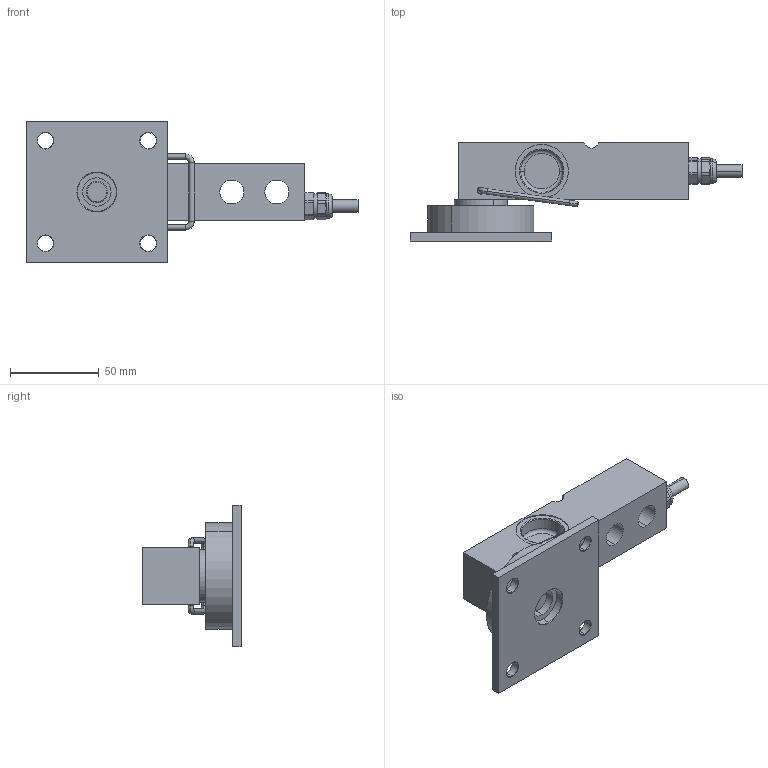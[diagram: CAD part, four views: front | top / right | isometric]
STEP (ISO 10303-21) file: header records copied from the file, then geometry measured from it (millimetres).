
FILE_DESCRIPTION (( 'STEP AP214' ), '1' );
FILE_NAME ('EBH-SFM-3510-2t.STEP', '2010-10-15T07:00:49', ( 'D. Hüttmann' ), ( 'Microsoft' ), 'SwSTEP 2.0', 'SolidWorks 2010', '' );
FILE_SCHEMA (( 'AUTOMOTIVE_DESIGN' ));
Length unit declared in the file: millimetre
Products named in the file (1): EBH-SFM-3510-2t
Bounding box: 187.4 x 55.5 x 80 mm (x, y, z)
Volume: 189355.8 mm3; surface area: 70380.4 mm2
Topology: 9 solids, 11 shells, 227 faces, 519 edges, 325 vertices
Faces by surface type: cylinder 101, plane 59, cone 45, torus 20, sphere 2
Entity records: 9298 total; most frequent: CARTESIAN_POINT 1344, DIRECTION 1211, ORIENTED_EDGE 1038, EDGE_CURVE 519, AXIS2_PLACEMENT_3D 506, VERTEX_POINT 325, CIRCLE 278, EDGE_LOOP 270
